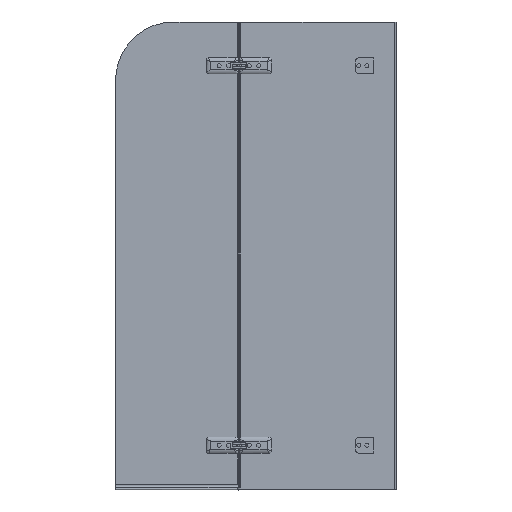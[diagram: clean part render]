
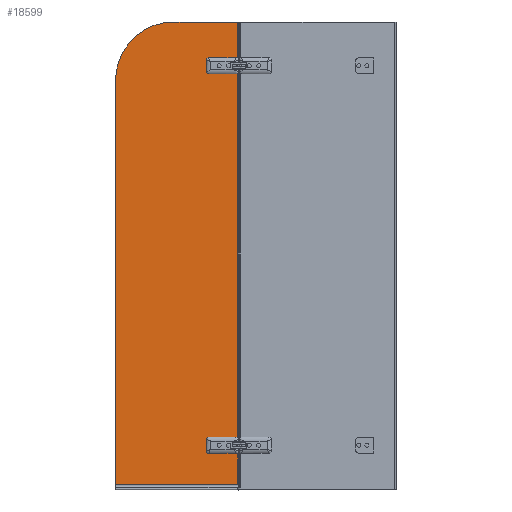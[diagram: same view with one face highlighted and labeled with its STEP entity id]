
A CAD part, left-side view. The second image highlights one B-rep face of the part: STEP entity #18599.
In plain terms, the highlighted planar face has unit normal (-1, 0, 0).
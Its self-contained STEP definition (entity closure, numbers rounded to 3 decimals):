
#323=FACE_BOUND($,#2782,.T.);
#324=FACE_BOUND($,#2783,.T.);
#325=FACE_BOUND($,#2784,.T.);
#2782=EDGE_LOOP($,(#15464));
#2783=EDGE_LOOP($,(#15465));
#2784=EDGE_LOOP($,(#15466,#15467,#15468,#15469,#15470,#15471,#15472,#15473,
#15474,#15475,#15476,#15477,#15478,#15479,#15480,#15481,#15482));
#3685=LINE($,#43093,#5265);
#3686=LINE($,#43099,#5266);
#4131=LINE($,#45518,#5711);
#4292=LINE($,#46054,#5872);
#4293=LINE($,#46058,#5873);
#4294=LINE($,#46061,#5874);
#4295=LINE($,#46063,#5875);
#4296=LINE($,#46067,#5876);
#4297=LINE($,#46068,#5877);
#4298=LINE($,#46070,#5878);
#4299=LINE($,#46074,#5879);
#4300=LINE($,#46077,#5880);
#5265=VECTOR($,#22838,131.);
#5266=VECTOR($,#22845,1262.);
#5711=VECTOR($,#24154,116.4);
#5872=VECTOR($,#24637,30.747);
#5873=VECTOR($,#24640,18.);
#5874=VECTOR($,#24643,30.747);
#5875=VECTOR($,#24644,218.747);
#5876=VECTOR($,#24647,1385.4);
#5877=VECTOR($,#24648,418.747);
#5878=VECTOR($,#24649,30.747);
#5879=VECTOR($,#24652,18.);
#5880=VECTOR($,#24655,30.747);
#6409=CIRCLE($,#19383,6.5);
#6575=CIRCLE($,#19817,6.5);
#6712=CIRCLE($,#20174,10.);
#6713=CIRCLE($,#20175,10.);
#6714=CIRCLE($,#20176,200.);
#6715=CIRCLE($,#20177,10.);
#6716=CIRCLE($,#20178,10.);
#7538=VERTEX_POINT($,#41986);
#7721=VERTEX_POINT($,#43090);
#7722=VERTEX_POINT($,#43092);
#7723=VERTEX_POINT($,#43096);
#7724=VERTEX_POINT($,#43098);
#7967=VERTEX_POINT($,#44410);
#8150=VERTEX_POINT($,#45515);
#8151=VERTEX_POINT($,#45517);
#8301=VERTEX_POINT($,#46053);
#8302=VERTEX_POINT($,#46055);
#8303=VERTEX_POINT($,#46057);
#8304=VERTEX_POINT($,#46059);
#8305=VERTEX_POINT($,#46062);
#8306=VERTEX_POINT($,#46064);
#8307=VERTEX_POINT($,#46066);
#8308=VERTEX_POINT($,#46069);
#8309=VERTEX_POINT($,#46071);
#8310=VERTEX_POINT($,#46073);
#8311=VERTEX_POINT($,#46075);
#9545=EDGE_CURVE($,#7538,#7538,#6409,.T.);
#9836=EDGE_CURVE($,#7721,#7722,#3685,.T.);
#9839=EDGE_CURVE($,#7723,#7724,#3686,.T.);
#10228=EDGE_CURVE($,#7967,#7967,#6575,.T.);
#10520=EDGE_CURVE($,#8150,#8151,#4131,.T.);
#10750=EDGE_CURVE($,#8301,#7723,#4292,.T.);
#10751=EDGE_CURVE($,#8301,#8302,#6712,.T.);
#10752=EDGE_CURVE($,#8303,#8302,#4293,.T.);
#10753=EDGE_CURVE($,#8303,#8304,#6713,.T.);
#10754=EDGE_CURVE($,#7722,#8304,#4294,.T.);
#10755=EDGE_CURVE($,#7721,#8305,#4295,.T.);
#10756=EDGE_CURVE($,#8305,#8306,#6714,.T.);
#10757=EDGE_CURVE($,#8307,#8306,#4296,.T.);
#10758=EDGE_CURVE($,#8307,#8151,#4297,.T.);
#10759=EDGE_CURVE($,#8308,#8150,#4298,.T.);
#10760=EDGE_CURVE($,#8308,#8309,#6715,.T.);
#10761=EDGE_CURVE($,#8310,#8309,#4299,.T.);
#10762=EDGE_CURVE($,#8310,#8311,#6716,.T.);
#10763=EDGE_CURVE($,#7724,#8311,#4300,.T.);
#15464=ORIENTED_EDGE($,*,*,#9545,.F.);
#15465=ORIENTED_EDGE($,*,*,#10228,.F.);
#15466=ORIENTED_EDGE($,*,*,#9839,.F.);
#15467=ORIENTED_EDGE($,*,*,#10750,.F.);
#15468=ORIENTED_EDGE($,*,*,#10751,.T.);
#15469=ORIENTED_EDGE($,*,*,#10752,.F.);
#15470=ORIENTED_EDGE($,*,*,#10753,.T.);
#15471=ORIENTED_EDGE($,*,*,#10754,.F.);
#15472=ORIENTED_EDGE($,*,*,#9836,.F.);
#15473=ORIENTED_EDGE($,*,*,#10755,.T.);
#15474=ORIENTED_EDGE($,*,*,#10756,.T.);
#15475=ORIENTED_EDGE($,*,*,#10757,.F.);
#15476=ORIENTED_EDGE($,*,*,#10758,.T.);
#15477=ORIENTED_EDGE($,*,*,#10520,.F.);
#15478=ORIENTED_EDGE($,*,*,#10759,.F.);
#15479=ORIENTED_EDGE($,*,*,#10760,.T.);
#15480=ORIENTED_EDGE($,*,*,#10761,.F.);
#15481=ORIENTED_EDGE($,*,*,#10762,.T.);
#15482=ORIENTED_EDGE($,*,*,#10763,.F.);
#16699=PLANE($,#20173);
#18599=ADVANCED_FACE($,(#323,#324,#325),#16699,.F.);
#19383=AXIS2_PLACEMENT_3D($,#41987,#22265,#22266);
#19817=AXIS2_PLACEMENT_3D($,#44411,#23579,#23580);
#20173=AXIS2_PLACEMENT_3D($,#46052,#24635,#24636);
#20174=AXIS2_PLACEMENT_3D($,#46056,#24638,#24639);
#20175=AXIS2_PLACEMENT_3D($,#46060,#24641,#24642);
#20176=AXIS2_PLACEMENT_3D($,#46065,#24645,#24646);
#20177=AXIS2_PLACEMENT_3D($,#46072,#24650,#24651);
#20178=AXIS2_PLACEMENT_3D($,#46076,#24653,#24654);
#22265=DIRECTION('center_axis',(-1.,0.,0.));
#22266=DIRECTION('ref_axis',(0.,-1.,0.));
#22838=DIRECTION($,(0.,0.,-1.));
#22845=DIRECTION($,(0.,0.,-1.));
#23579=DIRECTION('center_axis',(-1.,0.,0.));
#23580=DIRECTION('ref_axis',(0.,-1.,0.));
#24154=DIRECTION($,(0.,0.,-1.));
#24635=DIRECTION('center_axis',(1.,0.,0.));
#24636=DIRECTION('ref_axis',(0.,1.,0.));
#24637=DIRECTION($,(0.,-1.,0.));
#24638=DIRECTION('center_axis',(1.,0.,0.));
#24639=DIRECTION('ref_axis',(0.,0.707,-0.707));
#24640=DIRECTION($,(0.,0.,-1.));
#24641=DIRECTION('center_axis',(1.,0.,0.));
#24642=DIRECTION('ref_axis',(0.,0.707,0.707));
#24643=DIRECTION($,(0.,1.,0.));
#24644=DIRECTION($,(0.,1.,0.));
#24645=DIRECTION('center_axis',(-1.,0.,0.));
#24646=DIRECTION('ref_axis',(0.,0.707,0.707));
#24647=DIRECTION($,(0.,0.,1.));
#24648=DIRECTION($,(0.,-1.,0.));
#24649=DIRECTION($,(0.,-1.,0.));
#24650=DIRECTION('center_axis',(1.,0.,0.));
#24651=DIRECTION('ref_axis',(0.,0.707,-0.707));
#24652=DIRECTION($,(0.,0.,-1.));
#24653=DIRECTION('center_axis',(1.,0.,0.));
#24654=DIRECTION('ref_axis',(0.,0.707,0.707));
#24655=DIRECTION($,(0.,1.,0.));
#41986=CARTESIAN_POINT('',(1235.733,-187.544,1475.944));
#41987=CARTESIAN_POINT('Origin',(1235.733,-194.044,1475.944));
#43090=CARTESIAN_POINT('',(1235.733,-257.791,1625.944));
#43092=CARTESIAN_POINT('',(1235.733,-257.791,1494.944));
#43093=CARTESIAN_POINT($,(1235.733,-257.791,1485.944));
#43096=CARTESIAN_POINT('',(1235.733,-257.791,1456.944));
#43098=CARTESIAN_POINT('',(1235.733,-257.791,194.944));
#43099=CARTESIAN_POINT($,(1235.733,-257.791,185.944));
#44410=CARTESIAN_POINT('',(1235.733,-187.544,175.944));
#44411=CARTESIAN_POINT('Origin',(1235.733,-194.044,175.944));
#45515=CARTESIAN_POINT('',(1235.733,-257.791,156.944));
#45517=CARTESIAN_POINT('',(1235.733,-257.791,40.544));
#45518=CARTESIAN_POINT($,(1235.733,-257.791,165.944));
#46052=CARTESIAN_POINT('Origin',(1235.733,-259.044,35.944));
#46053=CARTESIAN_POINT('',(1235.733,-227.044,1456.944));
#46054=CARTESIAN_POINT($,(1235.733,-238.044,1456.944));
#46055=CARTESIAN_POINT('',(1235.733,-217.044,1466.944));
#46056=CARTESIAN_POINT('Origin',(1235.733,-227.044,1466.944));
#46057=CARTESIAN_POINT('',(1235.733,-217.044,1484.944));
#46058=CARTESIAN_POINT($,(1235.733,-217.044,765.444));
#46059=CARTESIAN_POINT('',(1235.733,-227.044,1494.944));
#46060=CARTESIAN_POINT('Origin',(1235.733,-227.044,1484.944));
#46061=CARTESIAN_POINT($,(1235.733,-259.044,1494.944));
#46062=CARTESIAN_POINT('',(1235.733,-39.044,1625.944));
#46063=CARTESIAN_POINT($,(1235.733,-259.044,1625.944));
#46064=CARTESIAN_POINT('',(1235.733,160.956,1425.944));
#46065=CARTESIAN_POINT('Origin',(1235.733,-39.044,1425.944));
#46066=CARTESIAN_POINT('',(1235.733,160.956,40.544));
#46067=CARTESIAN_POINT($,(1235.733,160.956,35.944));
#46068=CARTESIAN_POINT($,(1235.733,160.956,40.544));
#46069=CARTESIAN_POINT('',(1235.733,-227.044,156.944));
#46070=CARTESIAN_POINT($,(1235.733,-238.044,156.944));
#46071=CARTESIAN_POINT('',(1235.733,-217.044,166.944));
#46072=CARTESIAN_POINT('Origin',(1235.733,-227.044,166.944));
#46073=CARTESIAN_POINT('',(1235.733,-217.044,184.944));
#46074=CARTESIAN_POINT($,(1235.733,-217.044,115.444));
#46075=CARTESIAN_POINT('',(1235.733,-227.044,194.944));
#46076=CARTESIAN_POINT('Origin',(1235.733,-227.044,184.944));
#46077=CARTESIAN_POINT($,(1235.733,-259.044,194.944));
